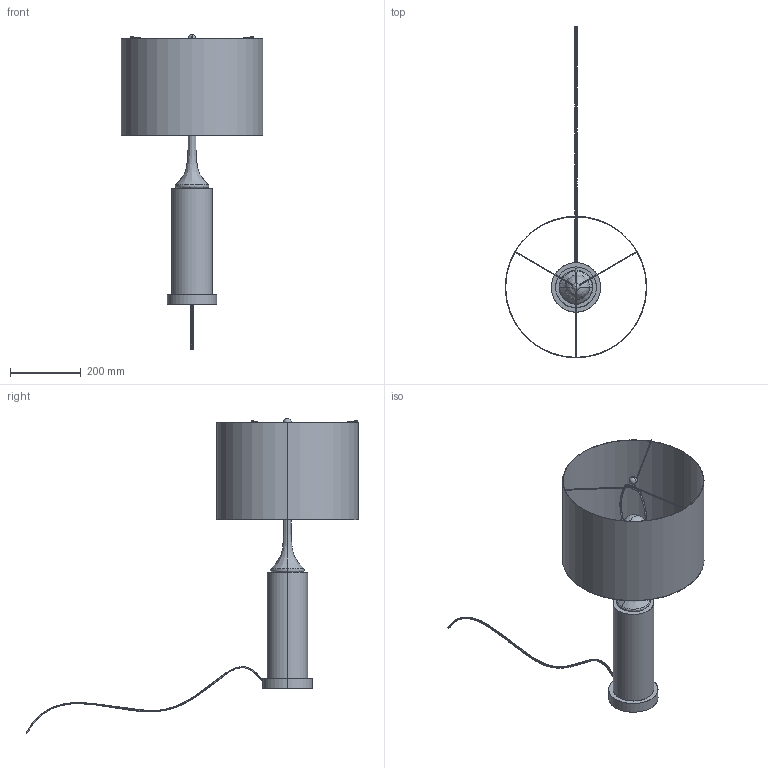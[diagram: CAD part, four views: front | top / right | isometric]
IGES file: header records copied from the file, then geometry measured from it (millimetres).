
Start section: SolidWorks IGES file using analytic representation for surfaces
Global section: file name: F:\燠隴矨\3D\9堎\Expino Table Lamp-D40XH77.IGS; native system: SolidWorks 2022; preprocessor: SolidWorks 2022; author: MyPC; date: 230917.172557; units: millimetre
Bounding box: 400 x 939.55 x 891.4 mm (x, y, z)
Surface area: 954493.9 mm2 (no closed solid volume)
Topology: 0 solids, 0 shells, 128 faces, 2711 edges, 2708 vertices
Faces by surface type: bspline 70, revolution 58
